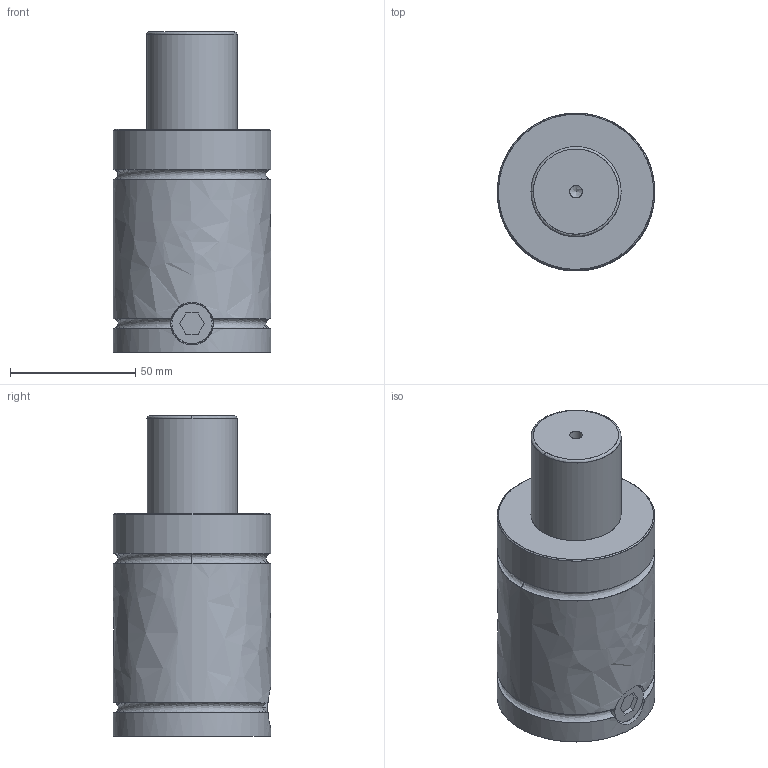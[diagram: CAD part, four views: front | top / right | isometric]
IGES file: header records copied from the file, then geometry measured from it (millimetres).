
Start section: VISI Layer Mapping Iges    VISI  0      LAYER_EMPTY  1      wwww  7      W_PD700  8      S_PD700  10     W_PD1000  11     S_PD1000  13     W_PD2000  14     S_PD2000  16     W_PD3000  17     S_PD3000  19     W_PD4000  20     S_PD4000  22     W_PD7000  23     S_PD7000  28     W_350  29     MS-350  30     MC-350  31     MP-350  32     MB-350  33     MH-350  34     MK-350  35     MPL-350  39     W_500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
Global section: file name: E:\だ錶臢\だ錶臢3D\SYLINDER\PT Series\PT1500\PT1500\PT1500-38.igs; native system: VISI 16.0; preprocessor: 2.0; author: 11; organization: 0; date: 500.; units: mil
Bounding box: 63 x 63 x 128 mm (x, y, z)
Surface area: 30975.9 mm2 (no closed solid volume)
Topology: 0 solids, 0 shells, 33 faces, 476 edges, 450 vertices
Faces by surface type: bspline 33
